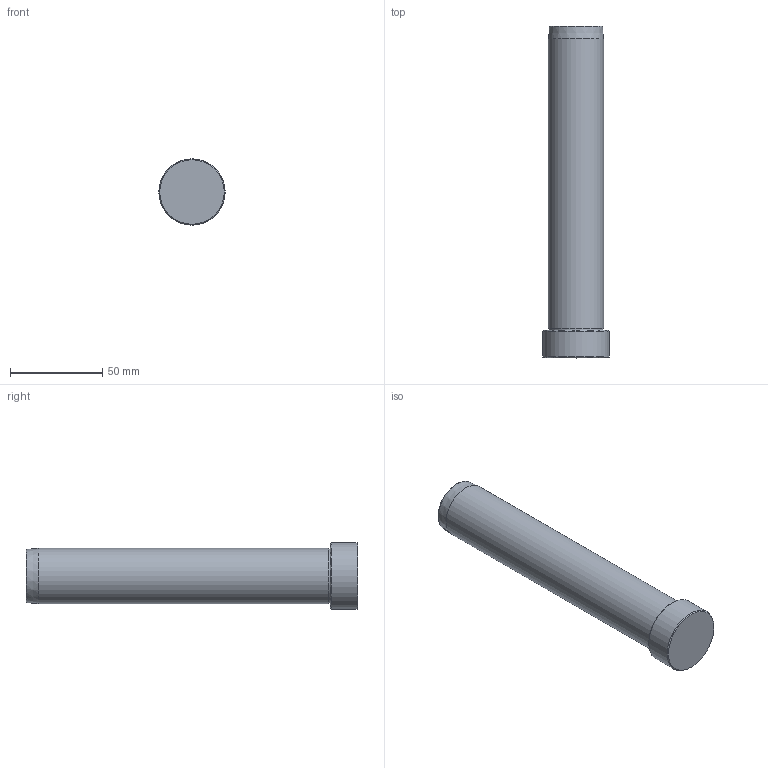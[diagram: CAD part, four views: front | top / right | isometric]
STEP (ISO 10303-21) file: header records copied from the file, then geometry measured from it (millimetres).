
FILE_DESCRIPTION( ( 'STEP AP203' ), '1' );
FILE_NAME( 'D:/Cuma/24 03 2009/D01D/D01D_30X180.step', '2002-12-31T22:17:03', ( ' ' ), ( ' ' ), 'XStep 1.0', ' ', ' ' );
FILE_SCHEMA( ( 'CONFIG_CONTROL_DESIGN' ) );
Length unit declared in the file: metre
Products named in the file (1): 1
Bounding box: 36 x 180 x 36 mm (x, y, z)
Volume: 131645.2 mm3; surface area: 19177.9 mm2
Topology: 1 solids, 1 shells, 11 faces, 17 edges, 10 vertices
Faces by surface type: plane 4, cone 3, cylinder 3, torus 1
Full cylindrical faces by diameter (mm): 29.5 x1, 30 x1, 36 x1
Entity records: 259 total; most frequent: DIRECTION 44, CARTESIAN_POINT 32, AXIS2_PLACEMENT_3D 22, EDGE_LOOP 20, ORIENTED_EDGE 20, FACE_OUTER_BOUND 15, ADVANCED_FACE 11, EDGE_CURVE 10
